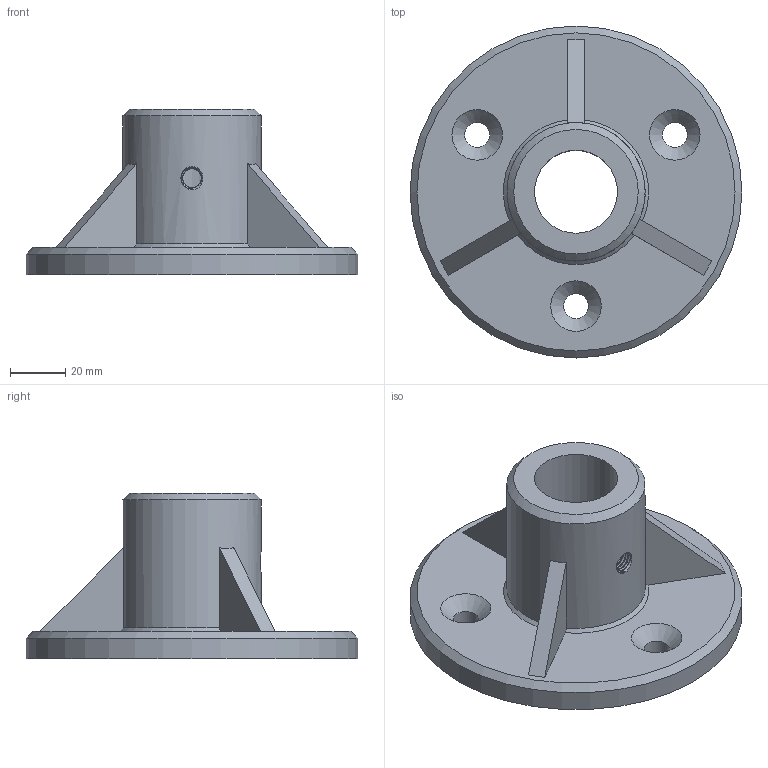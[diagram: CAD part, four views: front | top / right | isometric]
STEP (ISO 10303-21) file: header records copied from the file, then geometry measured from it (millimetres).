
FILE_DESCRIPTION(/* description */ (''),/* implementation_level */ '2;1');
FILE_NAME(/* name */ '30MM_M8.stp',/* time_stamp */ '2024-11-18T16:29:31+01:00',/* author */ (''),/* organization */ (''),/* preprocessor_version */ 'ST-DEVELOPER v20',/* originating_system */ 'SIEMENS PLM Software NX2406.4001',/* authorisation */ '');
FILE_SCHEMA (('AUTOMOTIVE_DESIGN { 1 0 10303 214 3 1 1 1 }'));
Length unit declared in the file: millimetre
Products named in the file (1): 30MM_M8
Bounding box: 120 x 120 x 60 mm (x, y, z)
Volume: 171869 mm3; surface area: 40551.6 mm2
Topology: 1 solids, 1 shells, 36 faces, 93 edges, 60 vertices
Faces by surface type: plane 13, cone 13, cylinder 8, bspline 2
Full cylindrical faces by diameter (mm): 9 x3, 30 x1, 50 x1, 120 x1
Entity records: 3093 total; most frequent: CARTESIAN_POINT 2270, DIRECTION 157, ORIENTED_EDGE 148, EDGE_CURVE 74, AXIS2_PLACEMENT_3D 67, EDGE_LOOP 62, VERTEX_POINT 56, FACE_BOUND 44
